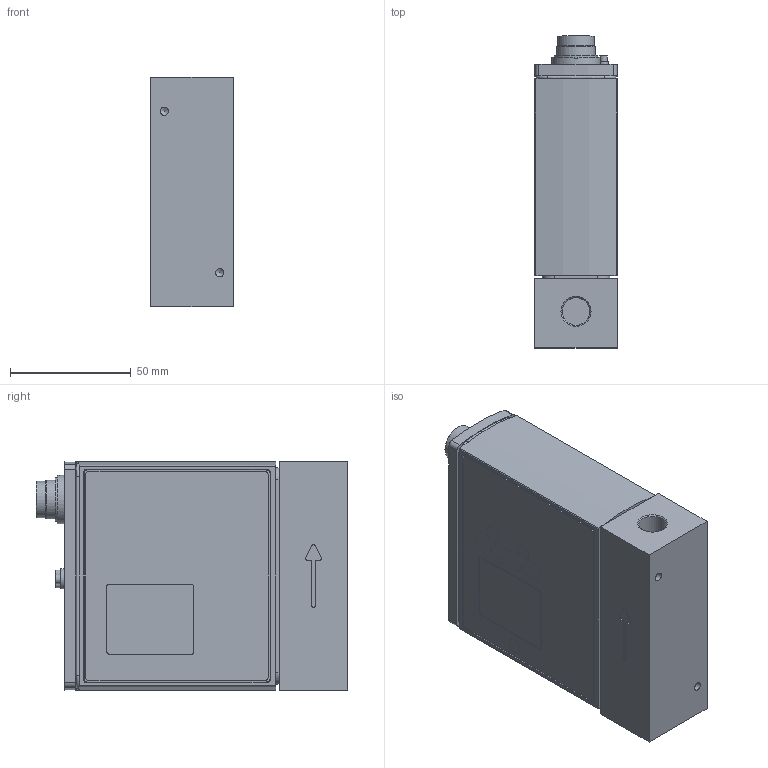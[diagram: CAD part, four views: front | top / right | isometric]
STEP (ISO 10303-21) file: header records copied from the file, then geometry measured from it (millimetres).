
FILE_DESCRIPTION(/* description */ (''),/* implementation_level */ '2;1');
FILE_NAME(/* name */ 'U:/AirCom-Produktdokumentation/Volumenstromregelung/PVM/Zeichnungen/CAD-Aircom/3D/B-PVM31,32.step',/* time_stamp */ '2020-12-16T08:31:55+01:00',/* author */ (''),/* organization */ (''),/* preprocessor_version */ 'ST-DEVELOPER v18.1',/* originating_system */ 'Autodesk Translation Framework v9.7.1.1290',/* authorisation */ '');
FILE_SCHEMA (('AUTOMOTIVE_DESIGN { 1 0 10303 214 3 1 1 }'));
Length unit declared in the file: millimetre
Products named in the file (1): Unbenannt
Bounding box: 34 x 129.2 x 95 mm (x, y, z)
Volume: 369303.2 mm3; surface area: 50769.2 mm2
Topology: 1 solids, 19 shells, 492 faces, 1208 edges, 786 vertices
Faces by surface type: plane 239, cylinder 155, cone 47, bspline 24, torus 19, sphere 8
Full cylindrical faces by diameter (mm): 1 x8, 2.013 x2, 2.459 x7, 2.693 x2, 2.88 x2, 3 x4, 3.4 x4, 3.459 x2, 3.6 x3, 3.75 x2, 4 x2, 5.4 x1, 5.5 x5, 6 x3, 6.5 x1, 6.7 x1, 8.3 x1, 11.445 x2, 14.5 x1, 15 x1, 16 x2, 18 x1, 18.1 x1, 20 x1
Entity records: 15521 total; most frequent: CARTESIAN_POINT 3322, DIRECTION 2561, ORIENTED_EDGE 2382, EDGE_CURVE 1191, AXIS2_PLACEMENT_3D 970, VERTEX_POINT 786, LINE 621, VECTOR 621
